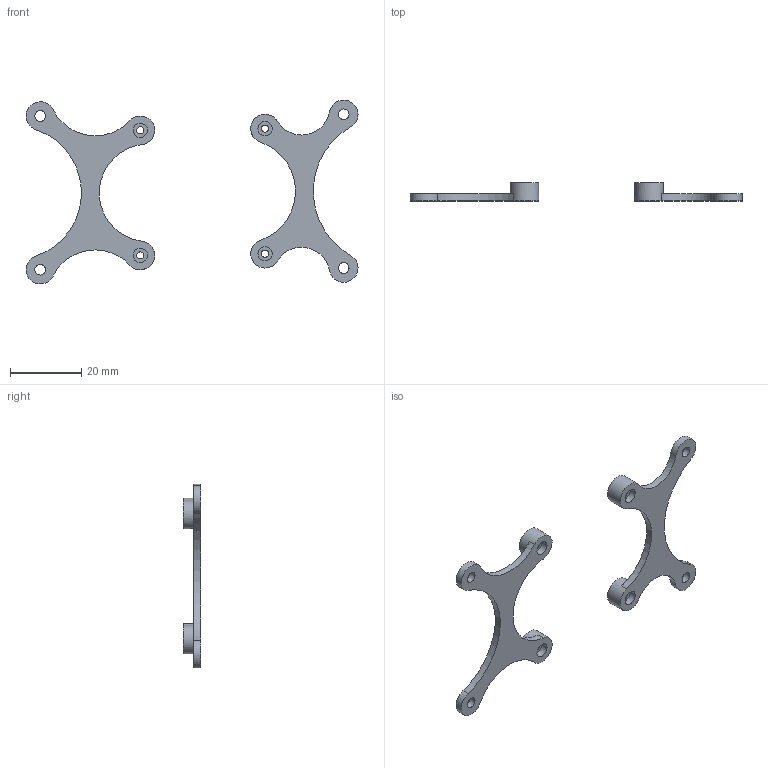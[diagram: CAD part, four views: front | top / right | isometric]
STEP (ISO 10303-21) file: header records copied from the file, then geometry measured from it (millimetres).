
FILE_DESCRIPTION(/* description */ ('STEP AP242','CAx-IF Rec.Pracs.---Representation and Presentation of Product Manufacturing Information (PMI)---4.0---2014-10-13','CAx-IF Rec.Pracs.---3D Tessellated Geometry---0.4---2014-09-14','2;1'),/* implementation_level */ '2;1');
FILE_NAME(/* name */ '67b613f6c5fed027b9f91b7b',/* time_stamp */ '2025-02-19T17:25:11Z',/* author */ (''),/* organization */ (''),/* preprocessor_version */ 'ST-DEVELOPER v20',/* originating_system */ 'ONSHAPE BY PTC INC, 1.193',/* authorisation */ ' ');
FILE_SCHEMA (('AP242_MANAGED_MODEL_BASED_3D_ENGINEERING_MIM_LF { 1 0 10303 442 1 1 4 }'));
Length unit declared in the file: metre
Products named in the file (2): Part 1; Part 2
Bounding box: 92.9 x 5 x 51.46 mm (x, y, z)
Volume: 2852.3 mm3; surface area: 3675.9 mm2
Topology: 2 solids, 2 shells, 40 faces, 98 edges, 66 vertices
Faces by surface type: cylinder 28, plane 12
Full cylindrical faces by diameter (mm): 2 x4, 3 x4, 4 x4, 8 x4
Entity records: 1164 total; most frequent: DIRECTION 220, CARTESIAN_POINT 178, ORIENTED_EDGE 152, AXIS2_PLACEMENT_3D 102, EDGE_CURVE 76, EDGE_LOOP 76, FACE_BOUND 76, VERTEX_POINT 60
